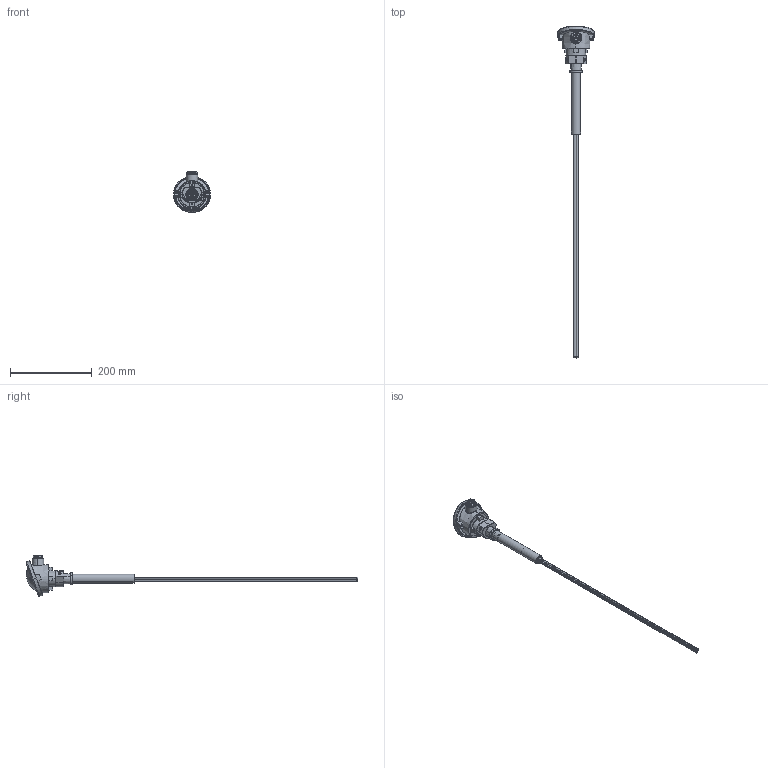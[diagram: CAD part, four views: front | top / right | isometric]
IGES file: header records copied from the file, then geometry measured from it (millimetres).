
Start section: SolidWorks IGES file using analytic representation for surfaces
Global section: file name: U:\02 - Zeichungen\8-0503-SR22\13-0503-SR22.IGS; native system: SolidWorks 2018; preprocessor: SolidWorks 2018; author: koertv0d; date: 180902.131007; units: millimetre
Bounding box: 90 x 810.01 x 99.45 mm (x, y, z)
Surface area: 196723.6 mm2 (no closed solid volume)
Topology: 0 solids, 0 shells, 1013 faces, 17754 edges, 17704 vertices
Faces by surface type: revolution 577, bspline 436
